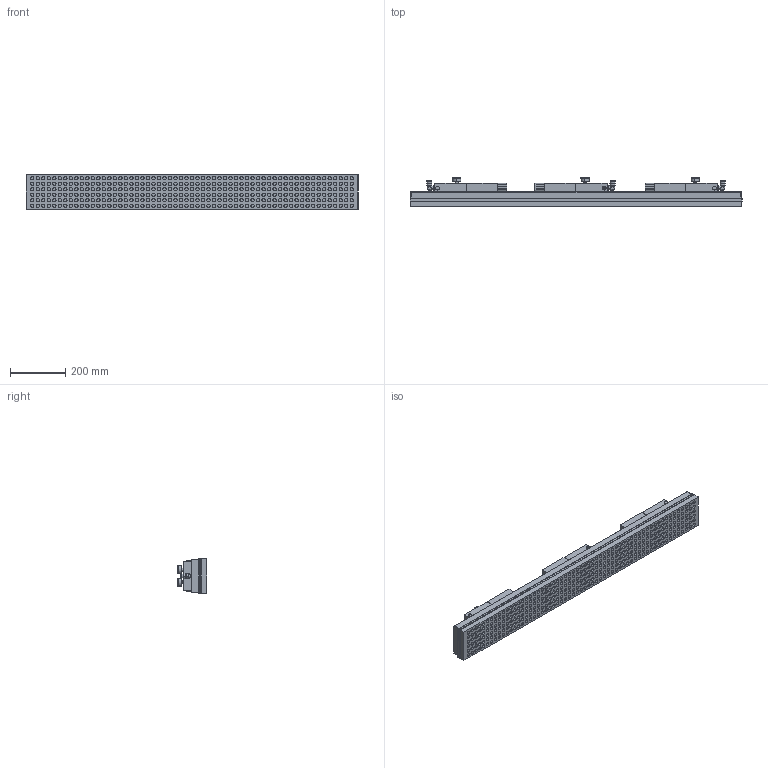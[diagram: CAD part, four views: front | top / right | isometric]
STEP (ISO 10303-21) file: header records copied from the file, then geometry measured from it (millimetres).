
FILE_DESCRIPTION (( 'STEP AP214' ), '1' );
FILE_NAME ('3-9-15214.STEP', '2012-09-13T06:35:12', ( 'cad' ), ( 'Microsoft' ), 'SwSTEP 2.0', 'SolidWorks 2012', '' );
FILE_SCHEMA (( 'AUTOMOTIVE_DESIGN' ));
Length unit declared in the file: millimetre
Products named in the file (1): 3-9-15214
Bounding box: 1206 x 107 x 126 mm (x, y, z)
Volume: 9630778.8 mm3; surface area: 890548.2 mm2
Topology: 1 solids, 1 shells, 1998 faces, 4450 edges, 2902 vertices
Faces by surface type: cylinder 965, plane 922, cone 108, sphere 3
Entity records: 74225 total; most frequent: DIRECTION 10410, CARTESIAN_POINT 10005, ORIENTED_EDGE 8900, EDGE_CURVE 4450, AXIS2_PLACEMENT_3D 4075, VERTEX_POINT 2902, EDGE_LOOP 2446, VECTOR 2260
